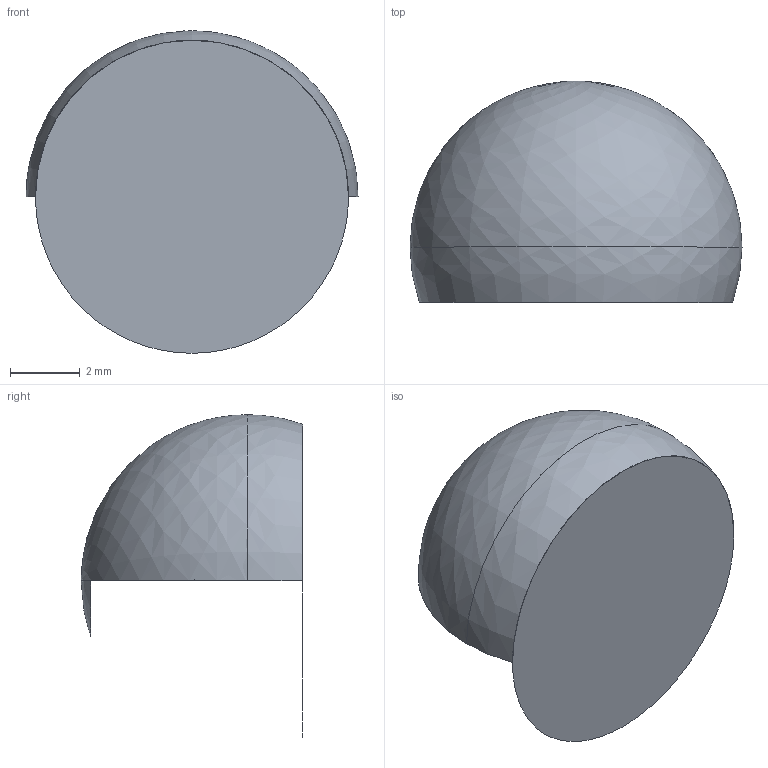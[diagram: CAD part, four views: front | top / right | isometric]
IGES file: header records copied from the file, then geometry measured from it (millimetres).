
Start section: SolidWorks IGES file using analytic representation for surfaces
Global section: file name: D:\Solid_parts\MECHeDESIGN\Bal-Tec\Catalog 105-A\Distribution\IGES\375-TB.IGS; native system: SolidWorks 2005 by SolidWorks Corporation; preprocessor: SolidWorks 2005 by SolidWorks Corporation; author: rvillegas; date: 061205.185424; units: inch
Bounding box: 9.53 x 6.35 x 9.25 mm (x, y, z)
Surface area: 233.8 mm2 (no closed solid volume)
Topology: 0 solids, 0 shells, 3 faces, 40 edges, 39 vertices
Faces by surface type: revolution 2, bspline 1
